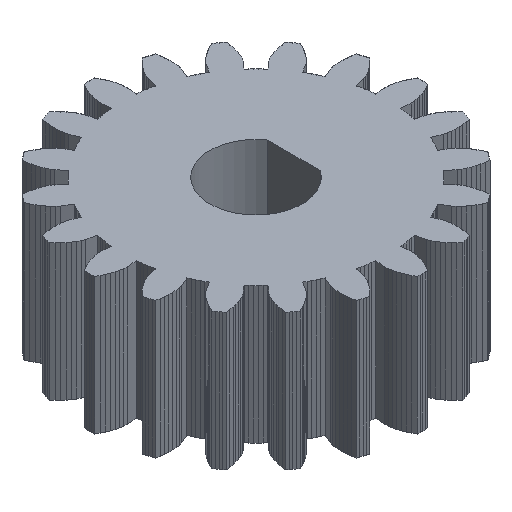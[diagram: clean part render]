
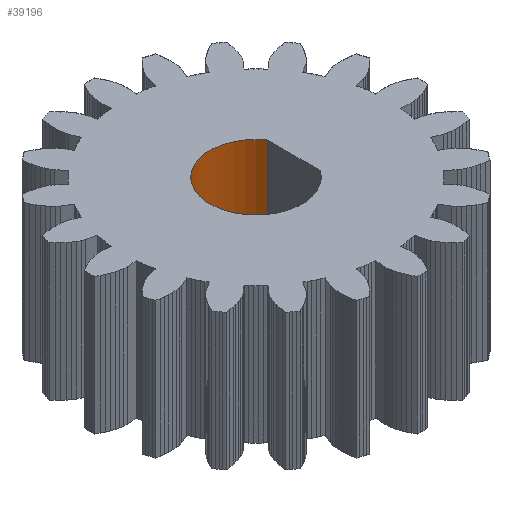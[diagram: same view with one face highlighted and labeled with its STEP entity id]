
A CAD part, isometric view. The second image highlights one B-rep face of the part: STEP entity #39196.
In plain terms, the highlighted cylindrical face has radius 3.05 mm (diameter 6.1 mm), a partial arc.
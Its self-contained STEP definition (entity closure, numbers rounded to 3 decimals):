
#72 = PLANE('',#73);
#73 = AXIS2_PLACEMENT_3D('',#74,#75,#76);
#74 = CARTESIAN_POINT('',(0.,0.,-22.5)
  );
#75 = DIRECTION('',(0.,0.,1.));
#76 = DIRECTION('',(1.,0.,-0.));
#126 = PLANE('',#127);
#127 = AXIS2_PLACEMENT_3D('',#128,#129,#130);
#128 = CARTESIAN_POINT('',(0.,0.,-31.5)
  );
#129 = DIRECTION('',(0.,0.,1.));
#130 = DIRECTION('',(1.,0.,-0.));
#14203 = VERTEX_POINT('',#14204);
#14204 = CARTESIAN_POINT('',(2.5,1.747,-31.5));
#14205 = VERTEX_POINT('',#14206);
#14206 = CARTESIAN_POINT('',(2.5,-1.747,-31.5));
#14220 = PLANE('',#14221);
#14221 = AXIS2_PLACEMENT_3D('',#14222,#14223,#14224);
#14222 = CARTESIAN_POINT('',(2.5,-6.1,-41.));
#14223 = DIRECTION('',(-1.,0.,0.));
#14224 = DIRECTION('',(0.,1.,0.));
#14232 = EDGE_CURVE('',#14205,#14203,#14233,.T.);
#14233 = SURFACE_CURVE('',#14234,(#14239,#14250),.PCURVE_S1.);
#14234 = CIRCLE('',#14235,3.05);
#14235 = AXIS2_PLACEMENT_3D('',#14236,#14237,#14238);
#14236 = CARTESIAN_POINT('',(0.,0.,-31.5));
#14237 = DIRECTION('',(0.,0.,-1.));
#14238 = DIRECTION('',(1.,0.,0.));
#14239 = PCURVE('',#126,#14240);
#14240 = DEFINITIONAL_REPRESENTATION('',(#14241),#14249);
#14241 = ( BOUNDED_CURVE() B_SPLINE_CURVE(2,(#14242,#14243,#14244,#14245
    ,#14246,#14247,#14248),.UNSPECIFIED.,.T.,.F.) 
B_SPLINE_CURVE_WITH_KNOTS((1,2,2,2,2,1),(-2.094,0.,
    2.094,4.189,6.283,8.378),
.UNSPECIFIED.) CURVE() GEOMETRIC_REPRESENTATION_ITEM() 
RATIONAL_B_SPLINE_CURVE((1.,0.5,1.,0.5,1.,0.5,1.)) REPRESENTATION_ITEM(
  '') );
#14242 = CARTESIAN_POINT('',(3.05,0.));
#14243 = CARTESIAN_POINT('',(3.05,-5.283));
#14244 = CARTESIAN_POINT('',(-1.525,-2.641));
#14245 = CARTESIAN_POINT('',(-6.1,0.));
#14246 = CARTESIAN_POINT('',(-1.525,2.641));
#14247 = CARTESIAN_POINT('',(3.05,5.283));
#14248 = CARTESIAN_POINT('',(3.05,0.));
#14249 = ( GEOMETRIC_REPRESENTATION_CONTEXT(2) 
PARAMETRIC_REPRESENTATION_CONTEXT() REPRESENTATION_CONTEXT('2D SPACE',''
  ) );
#14250 = PCURVE('',#14251,#14256);
#14251 = CYLINDRICAL_SURFACE('',#14252,3.05);
#14252 = AXIS2_PLACEMENT_3D('',#14253,#14254,#14255);
#14253 = CARTESIAN_POINT('',(0.,0.,-32.));
#14254 = DIRECTION('',(-0.,-0.,-1.));
#14255 = DIRECTION('',(1.,0.,0.));
#14256 = DEFINITIONAL_REPRESENTATION('',(#14257),#14261);
#14257 = LINE('',#14258,#14259);
#14258 = CARTESIAN_POINT('',(-6.283,-0.5));
#14259 = VECTOR('',#14260,1.);
#14260 = DIRECTION('',(1.,-0.));
#14261 = ( GEOMETRIC_REPRESENTATION_CONTEXT(2) 
PARAMETRIC_REPRESENTATION_CONTEXT() REPRESENTATION_CONTEXT('2D SPACE',''
  ) );
#25701 = VERTEX_POINT('',#25702);
#25702 = CARTESIAN_POINT('',(2.5,1.747,-22.5));
#25703 = VERTEX_POINT('',#25704);
#25704 = CARTESIAN_POINT('',(2.5,-1.747,-22.5));
#25725 = EDGE_CURVE('',#25703,#25701,#25726,.T.);
#25726 = SURFACE_CURVE('',#25727,(#25732,#25743),.PCURVE_S1.);
#25727 = CIRCLE('',#25728,3.05);
#25728 = AXIS2_PLACEMENT_3D('',#25729,#25730,#25731);
#25729 = CARTESIAN_POINT('',(0.,0.,-22.5));
#25730 = DIRECTION('',(0.,0.,-1.));
#25731 = DIRECTION('',(1.,0.,0.));
#25732 = PCURVE('',#72,#25733);
#25733 = DEFINITIONAL_REPRESENTATION('',(#25734),#25742);
#25734 = ( BOUNDED_CURVE() B_SPLINE_CURVE(2,(#25735,#25736,#25737,#25738
    ,#25739,#25740,#25741),.UNSPECIFIED.,.T.,.F.) 
B_SPLINE_CURVE_WITH_KNOTS((1,2,2,2,2,1),(-2.094,0.,
    2.094,4.189,6.283,8.378),
.UNSPECIFIED.) CURVE() GEOMETRIC_REPRESENTATION_ITEM() 
RATIONAL_B_SPLINE_CURVE((1.,0.5,1.,0.5,1.,0.5,1.)) REPRESENTATION_ITEM(
  '') );
#25735 = CARTESIAN_POINT('',(3.05,0.));
#25736 = CARTESIAN_POINT('',(3.05,-5.283));
#25737 = CARTESIAN_POINT('',(-1.525,-2.641));
#25738 = CARTESIAN_POINT('',(-6.1,0.));
#25739 = CARTESIAN_POINT('',(-1.525,2.641));
#25740 = CARTESIAN_POINT('',(3.05,5.283));
#25741 = CARTESIAN_POINT('',(3.05,0.));
#25742 = ( GEOMETRIC_REPRESENTATION_CONTEXT(2) 
PARAMETRIC_REPRESENTATION_CONTEXT() REPRESENTATION_CONTEXT('2D SPACE',''
  ) );
#25743 = PCURVE('',#14251,#25744);
#25744 = DEFINITIONAL_REPRESENTATION('',(#25745),#25749);
#25745 = LINE('',#25746,#25747);
#25746 = CARTESIAN_POINT('',(-6.283,-9.5));
#25747 = VECTOR('',#25748,1.);
#25748 = DIRECTION('',(1.,-0.));
#25749 = ( GEOMETRIC_REPRESENTATION_CONTEXT(2) 
PARAMETRIC_REPRESENTATION_CONTEXT() REPRESENTATION_CONTEXT('2D SPACE',''
  ) );
#39153 = EDGE_CURVE('',#25703,#14205,#39154,.T.);
#39154 = SURFACE_CURVE('',#39155,(#39159,#39166),.PCURVE_S1.);
#39155 = LINE('',#39156,#39157);
#39156 = CARTESIAN_POINT('',(2.5,-1.747,-32.));
#39157 = VECTOR('',#39158,1.);
#39158 = DIRECTION('',(-0.,-0.,-1.));
#39159 = PCURVE('',#14220,#39160);
#39160 = DEFINITIONAL_REPRESENTATION('',(#39161),#39165);
#39161 = LINE('',#39162,#39163);
#39162 = CARTESIAN_POINT('',(4.353,-9.));
#39163 = VECTOR('',#39164,1.);
#39164 = DIRECTION('',(0.,1.));
#39165 = ( GEOMETRIC_REPRESENTATION_CONTEXT(2) 
PARAMETRIC_REPRESENTATION_CONTEXT() REPRESENTATION_CONTEXT('2D SPACE',''
  ) );
#39166 = PCURVE('',#14251,#39167);
#39167 = DEFINITIONAL_REPRESENTATION('',(#39168),#39172);
#39168 = LINE('',#39169,#39170);
#39169 = CARTESIAN_POINT('',(-5.673,0.));
#39170 = VECTOR('',#39171,1.);
#39171 = DIRECTION('',(-0.,1.));
#39172 = ( GEOMETRIC_REPRESENTATION_CONTEXT(2) 
PARAMETRIC_REPRESENTATION_CONTEXT() REPRESENTATION_CONTEXT('2D SPACE',''
  ) );
#39175 = EDGE_CURVE('',#25701,#14203,#39176,.T.);
#39176 = SURFACE_CURVE('',#39177,(#39181,#39188),.PCURVE_S1.);
#39177 = LINE('',#39178,#39179);
#39178 = CARTESIAN_POINT('',(2.5,1.747,-32.));
#39179 = VECTOR('',#39180,1.);
#39180 = DIRECTION('',(-0.,-0.,-1.));
#39181 = PCURVE('',#14220,#39182);
#39182 = DEFINITIONAL_REPRESENTATION('',(#39183),#39187);
#39183 = LINE('',#39184,#39185);
#39184 = CARTESIAN_POINT('',(7.847,-9.));
#39185 = VECTOR('',#39186,1.);
#39186 = DIRECTION('',(0.,1.));
#39187 = ( GEOMETRIC_REPRESENTATION_CONTEXT(2) 
PARAMETRIC_REPRESENTATION_CONTEXT() REPRESENTATION_CONTEXT('2D SPACE',''
  ) );
#39188 = PCURVE('',#14251,#39189);
#39189 = DEFINITIONAL_REPRESENTATION('',(#39190),#39194);
#39190 = LINE('',#39191,#39192);
#39191 = CARTESIAN_POINT('',(-0.61,0.));
#39192 = VECTOR('',#39193,1.);
#39193 = DIRECTION('',(-0.,1.));
#39194 = ( GEOMETRIC_REPRESENTATION_CONTEXT(2) 
PARAMETRIC_REPRESENTATION_CONTEXT() REPRESENTATION_CONTEXT('2D SPACE',''
  ) );
#39196 = ADVANCED_FACE('',(#39197),#14251,.F.);
#39197 = FACE_BOUND('',#39198,.T.);
#39198 = EDGE_LOOP('',(#39199,#39200,#39201,#39202));
#39199 = ORIENTED_EDGE('',*,*,#14232,.T.);
#39200 = ORIENTED_EDGE('',*,*,#39175,.F.);
#39201 = ORIENTED_EDGE('',*,*,#25725,.F.);
#39202 = ORIENTED_EDGE('',*,*,#39153,.T.);
